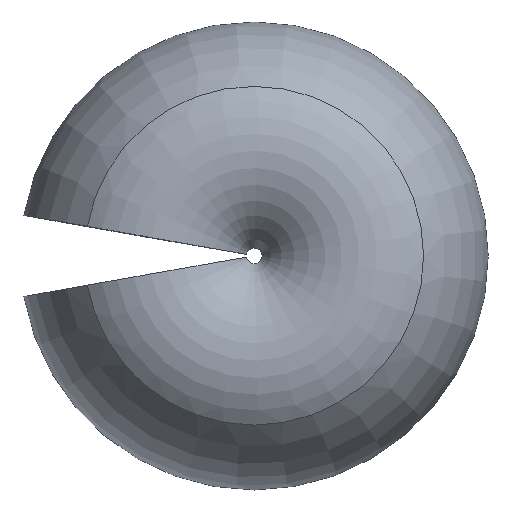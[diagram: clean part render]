
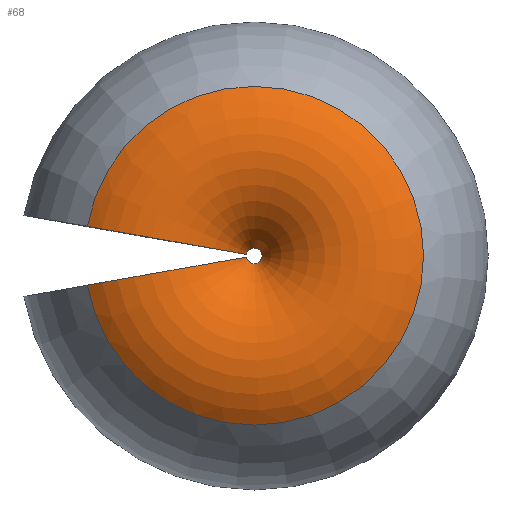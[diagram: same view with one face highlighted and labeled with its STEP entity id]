
A CAD part, top view. The second image highlights one B-rep face of the part: STEP entity #68.
In plain terms, the highlighted toroidal (fillet/blend) face has major radius 1269.05 mm and minor radius 1295 mm.
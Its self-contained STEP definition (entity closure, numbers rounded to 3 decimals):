
#5 = CIRCLE ( 'NONE', #136, 1295. ) ;
#7 = EDGE_CURVE ( 'NONE', #156, #113, #151, .T. ) ;
#17 = DIRECTION ( 'NONE',  ( 0., 0., -1. ) ) ;
#20 = CARTESIAN_POINT ( 'NONE',  ( 0., 0., 1750.264 ) ) ;
#27 = CARTESIAN_POINT ( 'NONE',  ( -93.929, -16.562, 2297.553 ) ) ;
#29 = ORIENTED_EDGE ( 'NONE', *, *, #41, .T. ) ;
#35 = ORIENTED_EDGE ( 'NONE', *, *, #186, .T. ) ;
#37 = DIRECTION ( 'NONE',  ( -1., 0., 0. ) ) ;
#41 = EDGE_CURVE ( 'NONE', #156, #201, #175, .T. ) ;
#55 = CARTESIAN_POINT ( 'NONE',  ( 0., 0., 2770.738 ) ) ;
#56 = CIRCLE ( 'NONE', #90, 95.378 ) ;
#65 = CARTESIAN_POINT ( 'NONE',  ( -1249.768, -220.368, 1750.264 ) ) ;
#66 = CARTESIAN_POINT ( 'NONE',  ( 0., 0., 2297.553 ) ) ;
#68 = ADVANCED_FACE ( 'NONE', ( #205 ), #231, .T. ) ;
#90 = AXIS2_PLACEMENT_3D ( 'NONE', #66, #169, #171 ) ;
#97 = ORIENTED_EDGE ( 'NONE', *, *, #7, .F. ) ;
#113 = VERTEX_POINT ( 'NONE', #144 ) ;
#117 = DIRECTION ( 'NONE',  ( 0.174, 0.985, 0. ) ) ;
#128 = DIRECTION ( 'NONE',  ( 0., 0., 1. ) ) ;
#136 = AXIS2_PLACEMENT_3D ( 'NONE', #65, #189, #128 ) ;
#144 = CARTESIAN_POINT ( 'NONE',  ( -2034.937, -358.814, 2770.738 ) ) ;
#150 = CARTESIAN_POINT ( 'NONE',  ( -93.929, 16.562, 2297.553 ) ) ;
#151 = CIRCLE ( 'NONE', #160, 2066.329 ) ;
#156 = VERTEX_POINT ( 'NONE', #233 ) ;
#160 = AXIS2_PLACEMENT_3D ( 'NONE', #55, #17, #260 ) ;
#169 = DIRECTION ( 'NONE',  ( 0., 0., -1. ) ) ;
#171 = DIRECTION ( 'NONE',  ( -1., 0., 0. ) ) ;
#175 = CIRCLE ( 'NONE', #195, 1295. ) ;
#185 = DIRECTION ( 'NONE',  ( 0., 0., -1. ) ) ;
#186 = EDGE_CURVE ( 'NONE', #201, #238, #56, .T. ) ;
#189 = DIRECTION ( 'NONE',  ( -0.174, 0.985, 0. ) ) ;
#194 = EDGE_CURVE ( 'NONE', #113, #238, #5, .T. ) ;
#195 = AXIS2_PLACEMENT_3D ( 'NONE', #247, #117, #208 ) ;
#197 = EDGE_LOOP ( 'NONE', ( #97, #29, #35, #262 ) ) ;
#201 = VERTEX_POINT ( 'NONE', #150 ) ;
#205 = FACE_OUTER_BOUND ( 'NONE', #197, .T. ) ;
#208 = DIRECTION ( 'NONE',  ( 0., 0., 1. ) ) ;
#225 = AXIS2_PLACEMENT_3D ( 'NONE', #20, #185, #37 ) ;
#231 = TOROIDAL_SURFACE ( 'NONE', #225, 1269.047, 1295. ) ;
#233 = CARTESIAN_POINT ( 'NONE',  ( -2034.937, 358.814, 2770.738 ) ) ;
#238 = VERTEX_POINT ( 'NONE', #27 ) ;
#247 = CARTESIAN_POINT ( 'NONE',  ( -1249.768, 220.368, 1750.264 ) ) ;
#260 = DIRECTION ( 'NONE',  ( -1., 0., 0. ) ) ;
#262 = ORIENTED_EDGE ( 'NONE', *, *, #194, .F. ) ;
